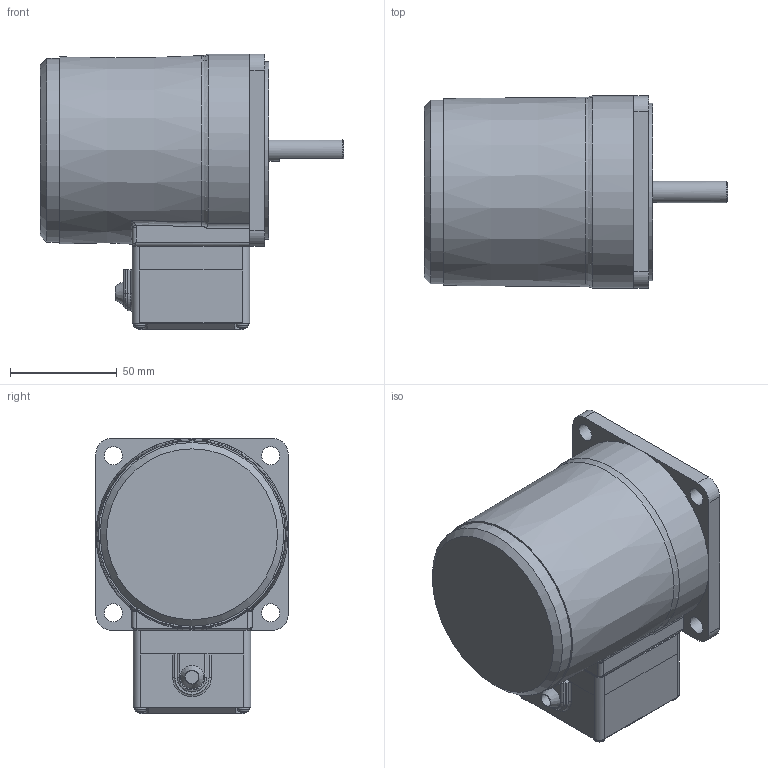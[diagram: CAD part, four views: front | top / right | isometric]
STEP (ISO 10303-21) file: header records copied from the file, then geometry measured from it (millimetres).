
FILE_DESCRIPTION(/* description */ (''),/* implementation_level */ '2;1');
FILE_NAME(/* name */ 'E:\도면작업\2016\0704) 미주향 SG 도면\3D MOTOR\TERMINAL BOX TYPE\INDUCTION TERMINAL BOX\SG9I40D_-T1.stp',/* time_stamp */ '2017-01-23T18:27:47+09:00',/* author */ ('jy-jung'),/* organization */ (''),/* preprocessor_version */ 'ST-DEVELOPER v15.6',/* originating_system */ 'Autodesk Inventor 2015',/* authorisation */ '');
FILE_SCHEMA (('AUTOMOTIVE_DESIGN { 1 0 10303 214 3 1 1 }'));
Length unit declared in the file: millimetre
Products named in the file (1): 부품4
Bounding box: 142 x 90 x 129 mm (x, y, z)
Volume: 778259.8 mm3; surface area: 58781.5 mm2
Topology: 1 solids, 2 shells, 251 faces, 668 edges, 428 vertices
Faces by surface type: plane 110, cylinder 51, cone 44, torus 24, bspline 18, sphere 4
Full cylindrical faces by diameter (mm): 8 x1, 8.5 x4, 10 x1, 40 x1, 83 x1, 86 x1
Entity records: 8655 total; most frequent: CARTESIAN_POINT 2505, ORIENTED_EDGE 1258, DIRECTION 1227, EDGE_CURVE 629, AXIS2_PLACEMENT_3D 476, VERTEX_POINT 417, EDGE_LOOP 294, LINE 275
